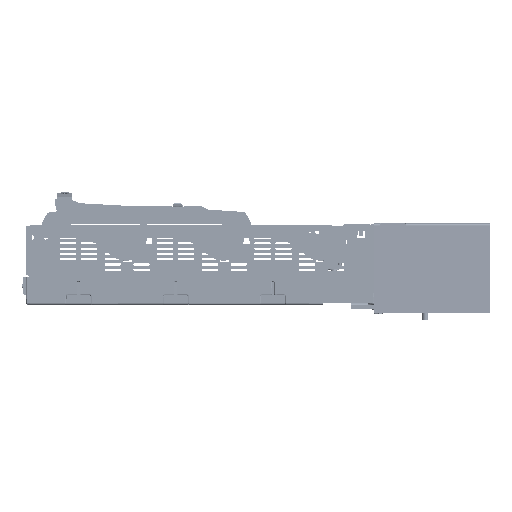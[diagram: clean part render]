
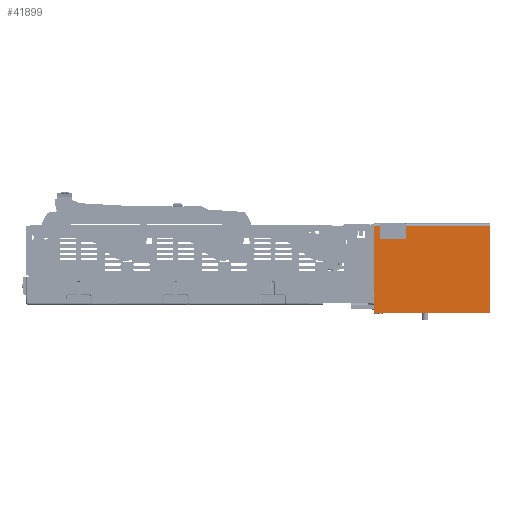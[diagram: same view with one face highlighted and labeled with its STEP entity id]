
A CAD part, left-side view. The second image highlights one B-rep face of the part: STEP entity #41899.
In plain terms, the highlighted planar face has unit normal (-1, 0, 0.004) as drawn and (-1, 0, 0) by its records, which use the part's own axes.
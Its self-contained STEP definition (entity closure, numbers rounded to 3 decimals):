
#41838=AXIS2_PLACEMENT_3D('Plane Axis2P3D',#41835,#41836,#41837) ;
#41856=AXIS2_PLACEMENT_3D('Circle Axis2P3D',#41854,#41855,$) ;
#41870=AXIS2_PLACEMENT_3D('Circle Axis2P3D',#41868,#41869,$) ;
#41382=CARTESIAN_POINT('Vertex',(-49.5,0.,-168.)) ;
#41385=CARTESIAN_POINT('Line Origine',(-49.5,0.,-85.)) ;
#41389=CARTESIAN_POINT('Vertex',(-49.5,0.,-2.)) ;
#41586=CARTESIAN_POINT('Vertex',(-49.5,-220.,-2.)) ;
#41589=CARTESIAN_POINT('Line Origine',(-49.5,-220.,-85.)) ;
#41593=CARTESIAN_POINT('Vertex',(-49.5,-220.,-168.)) ;
#41813=CARTESIAN_POINT('Line Origine',(-49.5,-110.,-168.)) ;
#41835=CARTESIAN_POINT('Axis2P3D Location',(-49.5,0.,-208.)) ;
#41840=CARTESIAN_POINT('Line Origine',(-49.5,-140.,-2.)) ;
#41844=CARTESIAN_POINT('Vertex',(-49.5,-60.,-2.)) ;
#41847=CARTESIAN_POINT('Line Origine',(-49.5,-60.,-13.5)) ;
#41851=CARTESIAN_POINT('Vertex',(-49.5,-60.,-25.)) ;
#41854=CARTESIAN_POINT('Axis2P3D Location',(-49.5,-57.,-25.)) ;
#41858=CARTESIAN_POINT('Vertex',(-49.5,-57.,-28.)) ;
#41861=CARTESIAN_POINT('Line Origine',(-49.5,-35.,-28.)) ;
#41865=CARTESIAN_POINT('Vertex',(-49.5,-13.,-28.)) ;
#41868=CARTESIAN_POINT('Axis2P3D Location',(-49.5,-13.,-25.)) ;
#41872=CARTESIAN_POINT('Vertex',(-49.5,-10.,-25.)) ;
#41875=CARTESIAN_POINT('Line Origine',(-49.5,-10.,-13.5)) ;
#41879=CARTESIAN_POINT('Vertex',(-49.5,-10.,-2.)) ;
#41882=CARTESIAN_POINT('Line Origine',(-49.5,-5.,-2.)) ;
#41386=DIRECTION('Vector Direction',(0.,0.,-1.)) ;
#41590=DIRECTION('Vector Direction',(0.,0.,-1.)) ;
#41814=DIRECTION('Vector Direction',(0.,1.,0.)) ;
#41836=DIRECTION('Axis2P3D Direction',(1.,0.,0.)) ;
#41837=DIRECTION('Axis2P3D XDirection',(0.,1.,0.)) ;
#41841=DIRECTION('Vector Direction',(0.,-1.,0.)) ;
#41848=DIRECTION('Vector Direction',(0.,0.,1.)) ;
#41855=DIRECTION('Axis2P3D Direction',(1.,0.,0.)) ;
#41862=DIRECTION('Vector Direction',(0.,1.,0.)) ;
#41869=DIRECTION('Axis2P3D Direction',(1.,0.,0.)) ;
#41876=DIRECTION('Vector Direction',(0.,0.,1.)) ;
#41883=DIRECTION('Vector Direction',(0.,-1.,0.)) ;
#41387=VECTOR('Line Direction',#41386,1.) ;
#41591=VECTOR('Line Direction',#41590,1.) ;
#41815=VECTOR('Line Direction',#41814,1.) ;
#41842=VECTOR('Line Direction',#41841,1.) ;
#41849=VECTOR('Line Direction',#41848,1.) ;
#41863=VECTOR('Line Direction',#41862,1.) ;
#41877=VECTOR('Line Direction',#41876,1.) ;
#41884=VECTOR('Line Direction',#41883,1.) ;
#41888=ORIENTED_EDGE('',*,*,#41391,.T.) ;
#41889=ORIENTED_EDGE('',*,*,#41817,.F.) ;
#41890=ORIENTED_EDGE('',*,*,#41595,.F.) ;
#41891=ORIENTED_EDGE('',*,*,#41846,.F.) ;
#41892=ORIENTED_EDGE('',*,*,#41853,.F.) ;
#41893=ORIENTED_EDGE('',*,*,#41860,.T.) ;
#41894=ORIENTED_EDGE('',*,*,#41867,.T.) ;
#41895=ORIENTED_EDGE('',*,*,#41874,.T.) ;
#41896=ORIENTED_EDGE('',*,*,#41881,.T.) ;
#41897=ORIENTED_EDGE('',*,*,#41886,.F.) ;
#41899=ADVANCED_FACE('Hauptkoerper nicht benutzen',(#41898),#41839,.F.) ;
#41857=CIRCLE('generated circle',#41856,3.) ;
#41871=CIRCLE('generated circle',#41870,3.) ;
#41391=EDGE_CURVE('',#41390,#41383,#41388,.T.) ;
#41595=EDGE_CURVE('',#41587,#41594,#41592,.T.) ;
#41817=EDGE_CURVE('',#41594,#41383,#41816,.T.) ;
#41846=EDGE_CURVE('',#41845,#41587,#41843,.T.) ;
#41853=EDGE_CURVE('',#41852,#41845,#41850,.T.) ;
#41860=EDGE_CURVE('',#41852,#41859,#41857,.T.) ;
#41867=EDGE_CURVE('',#41859,#41866,#41864,.T.) ;
#41874=EDGE_CURVE('',#41866,#41873,#41871,.T.) ;
#41881=EDGE_CURVE('',#41873,#41880,#41878,.T.) ;
#41886=EDGE_CURVE('',#41390,#41880,#41885,.T.) ;
#41887=EDGE_LOOP('',(#41888,#41889,#41890,#41891,#41892,#41893,#41894,#41895,#41896,#41897)) ;
#41898=FACE_OUTER_BOUND('',#41887,.T.) ;
#41388=LINE('Line',#41385,#41387) ;
#41592=LINE('Line',#41589,#41591) ;
#41816=LINE('Line',#41813,#41815) ;
#41843=LINE('Line',#41840,#41842) ;
#41850=LINE('Line',#41847,#41849) ;
#41864=LINE('Line',#41861,#41863) ;
#41878=LINE('Line',#41875,#41877) ;
#41885=LINE('Line',#41882,#41884) ;
#41839=PLANE('Plane',#41838) ;
#41383=VERTEX_POINT('',#41382) ;
#41390=VERTEX_POINT('',#41389) ;
#41587=VERTEX_POINT('',#41586) ;
#41594=VERTEX_POINT('',#41593) ;
#41845=VERTEX_POINT('',#41844) ;
#41852=VERTEX_POINT('',#41851) ;
#41859=VERTEX_POINT('',#41858) ;
#41866=VERTEX_POINT('',#41865) ;
#41873=VERTEX_POINT('',#41872) ;
#41880=VERTEX_POINT('',#41879) ;
